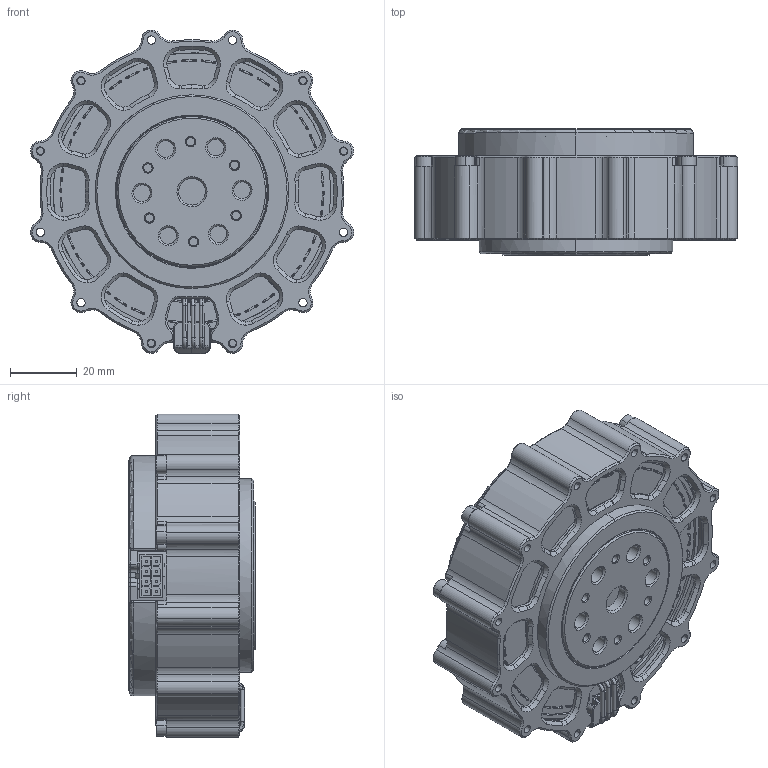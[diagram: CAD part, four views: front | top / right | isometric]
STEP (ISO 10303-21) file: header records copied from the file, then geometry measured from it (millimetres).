
FILE_DESCRIPTION (( 'STEP AP214' ), '1' );
FILE_NAME ('QDD-NU80-6_v3_2.STEP', '2019-06-05T10:01:22', ( 'Windows 蚚誧' ), ( '' ), 'SwSTEP 2.0', 'SolidWorks 2018', '' );
FILE_SCHEMA (( 'AUTOMOTIVE_DESIGN' ));
Length unit declared in the file: millimetre
Products named in the file (1): QDD-NU80-6_v3_2
Bounding box: 96.79 x 37.91 x 96.98 mm (x, y, z)
Volume: 179920.8 mm3; surface area: 79655.4 mm2
Topology: 20 solids, 22 shells, 3137 faces, 8591 edges, 5544 vertices
Faces by surface type: plane 1209, cylinder 1014, cone 454, torus 345, bspline 100, sphere 15
Entity records: 145637 total; most frequent: CARTESIAN_POINT 32683, ORIENTED_EDGE 17152, DIRECTION 15414, EDGE_CURVE 8576, VERTEX_POINT 5544, AXIS2_PLACEMENT_3D 5540, LINE 4334, VECTOR 4334
